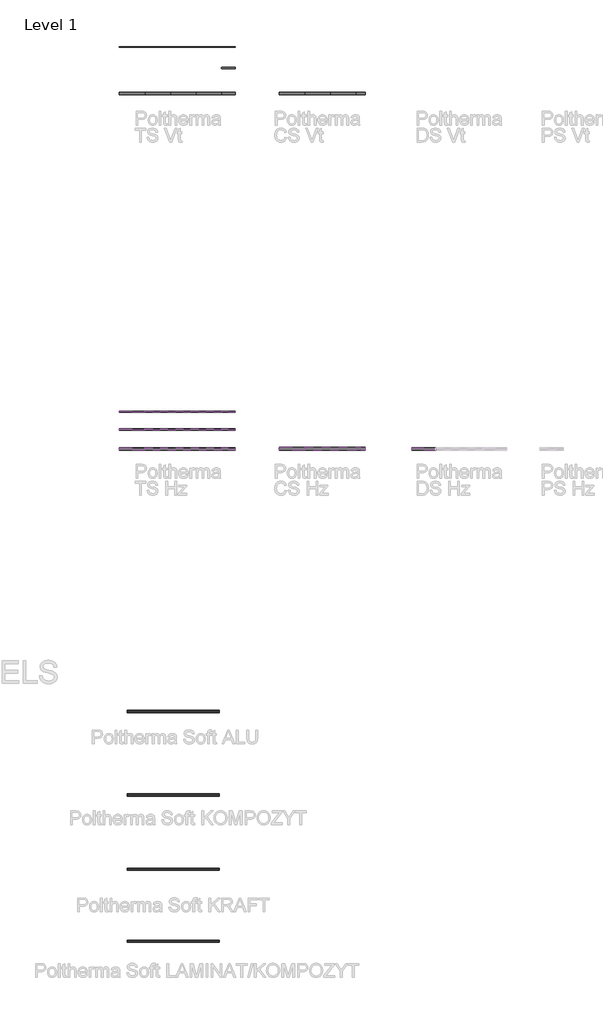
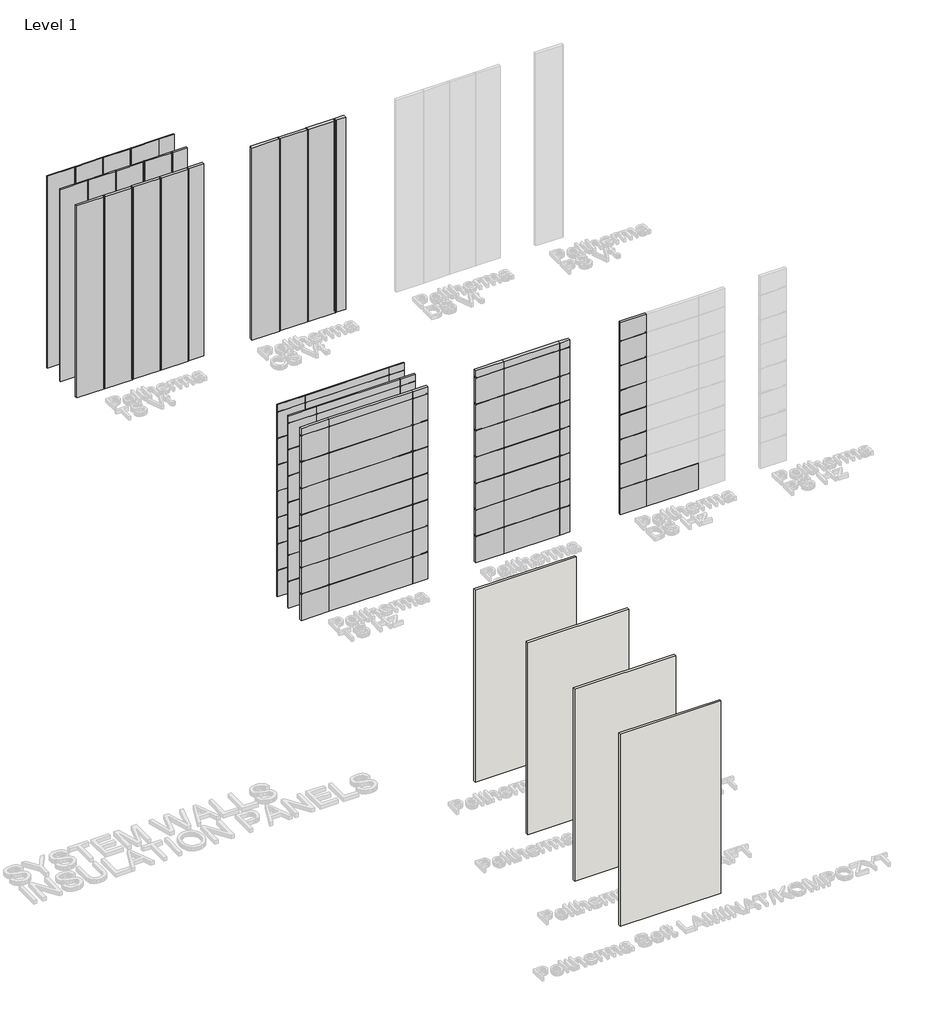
# One storey, part 1 of 27: 124 plates, 4 walls.
"""IFC4 building model written with IfcOpenShell, lengths in millimetres."""

from ifc_helpers import new_model, si_unit, origin, origin_with_axes, place, context, project, spatial, polyline, outline, extrude, transform, mapped, element, save
from components import poltherma_cs_120_64653d21, poltherma_cs_120_1daff7ea, poltherma_cs_120_40549a2e, poltherma_cs_120_fbbb0af5, poltherma_cs_120_e44c0f6b, poltherma_cs_120_78175f20, poltherma_cs_120_0cfae51c, poltherma_cs_120_099495f3, poltherma_cs_120_6d86f31b, poltherma_cs_120_21748652, poltherma_cs_120_ee5d68ca, poltherma_cs_120_100e0ef2, poltherma_ds_100_d88b4380, poltherma_ds_100_98c2bc51, poltherma_ds_100_de707eb4, poltherma_ds_100_4dea5682, poltherma_ts_100_263237e6, poltherma_ts_100_7b695300, poltherma_ts_100_44fe8c07, poltherma_ts_100_0bb2fc31, poltherma_ts_100_9f9b319c, poltherma_ts_100_6033b162, poltherma_ts_100_bee1555e, poltherma_ts_100_b3715b13, poltherma_ts_100_3a0a2318, poltherma_ts_100_c626b90e, poltherma_ts_100_5a3106a8, poltherma_ts_100_5c1c5dba, poltherma_ts_40_bbba443b, poltherma_ts_40_f3512897, poltherma_ts_40_73381110, poltherma_ts_40_2aec9fe8, poltherma_ts_40_e0eb3698, poltherma_ts_40_79d9c480, poltherma_ts_40_39fe1b16, poltherma_ts_40_ccc66070, poltherma_ts_40_0c37c41d, poltherma_ts_40_c34f58fd, poltherma_ts_40_b35252ce, poltherma_ts_40_5d269152, poltherma_ts_60_b4611f67, poltherma_ts_60_dc3e1cb6, poltherma_ts_60_b4b8779d, poltherma_ts_60_d6ba0856, poltherma_ts_60_a74884d3, poltherma_ts_60_9aed752a, poltherma_ts_60_cce1f58e, poltherma_ts_60_64a75bf9, poltherma_ts_60_3e408c3d, poltherma_ts_60_656cde4c, poltherma_ts_60_83b530aa, poltherma_ts_60_06df7f63

model = new_model("IFC4")

# Units and contexts
model_context = context("Model", 3, world=origin())
ifc_project = project(units=[si_unit("LENGTHUNIT", "METRE", prefix="MILLI")], contexts=[model_context])

# Site, building, storey
site = spatial("IfcSite", under=ifc_project)
building = spatial("IfcBuilding", under=site)
storey = spatial("IfcBuildingStorey", under=building, Name="Level 1", Elevation=0.0)

# Plates
placement = place(None, origin())
poltherma_cs_120_shape = poltherma_cs_120_64653d21(model_context)
element("IfcPlate", 1, ObjectType="Europanels_Poltherma CS_Hz : PolTherma CS 120", at=placement, inside=storey, context=model_context, shape_type="MappedRepresentation", body=[
    mapped(poltherma_cs_120_shape, transform((-5125.7125597, -18297.4348092, 0.0), x_axis=(1.0, 0.0, 0.0), y_axis=(0.0, 1.0, 0.0), z_axis=(0.0, 0.0, 1.0))),
])
poltherma_cs_120_2_shape = poltherma_cs_120_1daff7ea(model_context)
element("IfcPlate", 2, ObjectType="Europanels_Poltherma CS_Hz : PolTherma CS 120", at=placement, inside=storey, context=model_context, shape_type="MappedRepresentation", body=[
    mapped(poltherma_cs_120_2_shape, transform((-3475.7125597, -18297.4348092, 0.0), x_axis=(1.0, 0.0, 0.0), y_axis=(0.0, 1.0, 0.0), z_axis=(0.0, 0.0, 1.0))),
])
poltherma_cs_120_3_shape = poltherma_cs_120_40549a2e(model_context)
element("IfcPlate", 3, ObjectType="Europanels_Poltherma CS_Hz : PolTherma CS 120", at=placement, inside=storey, context=model_context, shape_type="MappedRepresentation", body=[
    mapped(poltherma_cs_120_3_shape, transform((-2175.7125597, -18297.4348092, 0.0), x_axis=(1.0, 0.0, 0.0), y_axis=(0.0, 1.0, 0.0), z_axis=(0.0, 0.0, 1.0))),
])
poltherma_cs_120_4_shape = poltherma_cs_120_fbbb0af5(model_context)
element("IfcPlate", 4, ObjectType="Europanels_Poltherma CS_Hz : PolTherma CS 120", at=placement, inside=storey, context=model_context, shape_type="MappedRepresentation", body=[
    mapped(poltherma_cs_120_4_shape, transform((-5125.7125597, -18297.4348092, 1100.0), x_axis=(1.0, 0.0, 0.0), y_axis=(0.0, 1.0, 0.0), z_axis=(0.0, 0.0, 1.0))),
])
element("IfcPlate", 5, ObjectType="Europanels_Poltherma CS_Hz : PolTherma CS 120", at=placement, inside=storey, context=model_context, shape_type="MappedRepresentation", body=[
    mapped(poltherma_cs_120_4_shape, transform((-5125.7125597, -18297.4348092, 2200.0), x_axis=(1.0, 0.0, 0.0), y_axis=(0.0, 1.0, 0.0), z_axis=(0.0, 0.0, 1.0))),
])
element("IfcPlate", 6, ObjectType="Europanels_Poltherma CS_Hz : PolTherma CS 120", at=placement, inside=storey, context=model_context, shape_type="MappedRepresentation", body=[
    mapped(poltherma_cs_120_4_shape, transform((-5125.7125597, -18297.4348092, 3300.0), x_axis=(1.0, 0.0, 0.0), y_axis=(0.0, 1.0, 0.0), z_axis=(0.0, 0.0, 1.0))),
])
element("IfcPlate", 7, ObjectType="Europanels_Poltherma CS_Hz : PolTherma CS 120", at=placement, inside=storey, context=model_context, shape_type="MappedRepresentation", body=[
    mapped(poltherma_cs_120_4_shape, transform((-5125.7125597, -18297.4348092, 4400.0), x_axis=(1.0, 0.0, 0.0), y_axis=(0.0, 1.0, 0.0), z_axis=(0.0, 0.0, 1.0))),
])
element("IfcPlate", 8, ObjectType="Europanels_Poltherma CS_Hz : PolTherma CS 120", at=placement, inside=storey, context=model_context, shape_type="MappedRepresentation", body=[
    mapped(poltherma_cs_120_4_shape, transform((-5125.7125597, -18297.4348092, 5500.0), x_axis=(1.0, 0.0, 0.0), y_axis=(0.0, 1.0, 0.0), z_axis=(0.0, 0.0, 1.0))),
])
element("IfcPlate", 9, ObjectType="Europanels_Poltherma CS_Hz : PolTherma CS 120", at=placement, inside=storey, context=model_context, shape_type="MappedRepresentation", body=[
    mapped(poltherma_cs_120_4_shape, transform((-5125.7125597, -18297.4348092, 6600.0), x_axis=(1.0, 0.0, 0.0), y_axis=(0.0, 1.0, 0.0), z_axis=(0.0, 0.0, 1.0))),
])
poltherma_cs_120_5_shape = poltherma_cs_120_e44c0f6b(model_context)
element("IfcPlate", 10, ObjectType="Europanels_Poltherma CS_Hz : PolTherma CS 120", at=placement, inside=storey, context=model_context, shape_type="MappedRepresentation", body=[
    mapped(poltherma_cs_120_5_shape, transform((-3475.7125597, -18297.4348092, 1100.0), x_axis=(1.0, 0.0, 0.0), y_axis=(0.0, 1.0, 0.0), z_axis=(0.0, 0.0, 1.0))),
])
element("IfcPlate", 11, ObjectType="Europanels_Poltherma CS_Hz : PolTherma CS 120", at=placement, inside=storey, context=model_context, shape_type="MappedRepresentation", body=[
    mapped(poltherma_cs_120_5_shape, transform((-3475.7125597, -18297.4348092, 2200.0), x_axis=(1.0, 0.0, 0.0), y_axis=(0.0, 1.0, 0.0), z_axis=(0.0, 0.0, 1.0))),
])
element("IfcPlate", 12, ObjectType="Europanels_Poltherma CS_Hz : PolTherma CS 120", at=placement, inside=storey, context=model_context, shape_type="MappedRepresentation", body=[
    mapped(poltherma_cs_120_5_shape, transform((-3475.7125597, -18297.4348092, 3300.0), x_axis=(1.0, 0.0, 0.0), y_axis=(0.0, 1.0, 0.0), z_axis=(0.0, 0.0, 1.0))),
])
element("IfcPlate", 13, ObjectType="Europanels_Poltherma CS_Hz : PolTherma CS 120", at=placement, inside=storey, context=model_context, shape_type="MappedRepresentation", body=[
    mapped(poltherma_cs_120_5_shape, transform((-3475.7125597, -18297.4348092, 4400.0), x_axis=(1.0, 0.0, 0.0), y_axis=(0.0, 1.0, 0.0), z_axis=(0.0, 0.0, 1.0))),
])
element("IfcPlate", 14, ObjectType="Europanels_Poltherma CS_Hz : PolTherma CS 120", at=placement, inside=storey, context=model_context, shape_type="MappedRepresentation", body=[
    mapped(poltherma_cs_120_5_shape, transform((-3475.7125597, -18297.4348092, 5500.0), x_axis=(1.0, 0.0, 0.0), y_axis=(0.0, 1.0, 0.0), z_axis=(0.0, 0.0, 1.0))),
])
element("IfcPlate", 15, ObjectType="Europanels_Poltherma CS_Hz : PolTherma CS 120", at=placement, inside=storey, context=model_context, shape_type="MappedRepresentation", body=[
    mapped(poltherma_cs_120_5_shape, transform((-3475.7125597, -18297.4348092, 6600.0), x_axis=(1.0, 0.0, 0.0), y_axis=(0.0, 1.0, 0.0), z_axis=(0.0, 0.0, 1.0))),
])
poltherma_cs_120_6_shape = poltherma_cs_120_78175f20(model_context)
element("IfcPlate", 16, ObjectType="Europanels_Poltherma CS_Hz : PolTherma CS 120", at=placement, inside=storey, context=model_context, shape_type="MappedRepresentation", body=[
    mapped(poltherma_cs_120_6_shape, transform((-2175.7125597, -18297.4348092, 1100.0), x_axis=(1.0, 0.0, 0.0), y_axis=(0.0, 1.0, 0.0), z_axis=(0.0, 0.0, 1.0))),
])
element("IfcPlate", 17, ObjectType="Europanels_Poltherma CS_Hz : PolTherma CS 120", at=placement, inside=storey, context=model_context, shape_type="MappedRepresentation", body=[
    mapped(poltherma_cs_120_6_shape, transform((-2175.7125597, -18297.4348092, 2200.0), x_axis=(1.0, 0.0, 0.0), y_axis=(0.0, 1.0, 0.0), z_axis=(0.0, 0.0, 1.0))),
])
element("IfcPlate", 18, ObjectType="Europanels_Poltherma CS_Hz : PolTherma CS 120", at=placement, inside=storey, context=model_context, shape_type="MappedRepresentation", body=[
    mapped(poltherma_cs_120_6_shape, transform((-2175.7125597, -18297.4348092, 3300.0), x_axis=(1.0, 0.0, 0.0), y_axis=(0.0, 1.0, 0.0), z_axis=(0.0, 0.0, 1.0))),
])
element("IfcPlate", 19, ObjectType="Europanels_Poltherma CS_Hz : PolTherma CS 120", at=placement, inside=storey, context=model_context, shape_type="MappedRepresentation", body=[
    mapped(poltherma_cs_120_6_shape, transform((-2175.7125597, -18297.4348092, 4400.0), x_axis=(1.0, 0.0, 0.0), y_axis=(0.0, 1.0, 0.0), z_axis=(0.0, 0.0, 1.0))),
])
element("IfcPlate", 20, ObjectType="Europanels_Poltherma CS_Hz : PolTherma CS 120", at=placement, inside=storey, context=model_context, shape_type="MappedRepresentation", body=[
    mapped(poltherma_cs_120_6_shape, transform((-2175.7125597, -18297.4348092, 5500.0), x_axis=(1.0, 0.0, 0.0), y_axis=(0.0, 1.0, 0.0), z_axis=(0.0, 0.0, 1.0))),
])
element("IfcPlate", 21, ObjectType="Europanels_Poltherma CS_Hz : PolTherma CS 120", at=placement, inside=storey, context=model_context, shape_type="MappedRepresentation", body=[
    mapped(poltherma_cs_120_6_shape, transform((-2175.7125597, -18297.4348092, 6600.0), x_axis=(1.0, 0.0, 0.0), y_axis=(0.0, 1.0, 0.0), z_axis=(0.0, 0.0, 1.0))),
])
poltherma_cs_120_7_shape = poltherma_cs_120_0cfae51c(model_context)
element("IfcPlate", 22, ObjectType="Europanels_Poltherma CS_Hz : PolTherma CS 120", at=placement, inside=storey, context=model_context, shape_type="MappedRepresentation", body=[
    mapped(poltherma_cs_120_7_shape, transform((-5125.7125597, -18297.4348092, 7700.0), x_axis=(1.0, 0.0, 0.0), y_axis=(0.0, 1.0, 0.0), z_axis=(0.0, 0.0, 1.0))),
])
poltherma_cs_120_8_shape = poltherma_cs_120_099495f3(model_context)
element("IfcPlate", 23, ObjectType="Europanels_Poltherma CS_Hz : PolTherma CS 120", at=placement, inside=storey, context=model_context, shape_type="MappedRepresentation", body=[
    mapped(poltherma_cs_120_8_shape, transform((-3475.7125597, -18297.4348092, 7700.0), x_axis=(1.0, 0.0, 0.0), y_axis=(0.0, 1.0, 0.0), z_axis=(0.0, 0.0, 1.0))),
])
poltherma_cs_120_9_shape = poltherma_cs_120_6d86f31b(model_context)
element("IfcPlate", 24, ObjectType="Europanels_Poltherma CS_Hz : PolTherma CS 120", at=placement, inside=storey, context=model_context, shape_type="MappedRepresentation", body=[
    mapped(poltherma_cs_120_9_shape, transform((-2175.7125597, -18297.4348092, 7700.0), x_axis=(1.0, 0.0, 0.0), y_axis=(0.0, 1.0, 0.0), z_axis=(0.0, 0.0, 1.0))),
])
poltherma_cs_120_10_shape = poltherma_cs_120_21748652(model_context)
element("IfcPlate", 25, ObjectType="Europanels_Poltherma CS_Vt : PolTherma CS 120", at=placement, inside=storey, context=model_context, shape_type="MappedRepresentation", body=[
    mapped(poltherma_cs_120_10_shape, transform((-5125.7125597, -2997.4348092, 0.0), x_axis=(1.0, 0.0, 0.0), y_axis=(0.0, 1.0, 0.0), z_axis=(0.0, 0.0, 1.0))),
])
poltherma_cs_120_11_shape = poltherma_cs_120_ee5d68ca(model_context)
element("IfcPlate", 26, ObjectType="Europanels_Poltherma CS_Vt : PolTherma CS 120", at=placement, inside=storey, context=model_context, shape_type="MappedRepresentation", body=[
    mapped(poltherma_cs_120_11_shape, transform((-4025.7125597, -2997.4348092, 0.0), x_axis=(1.0, 0.0, 0.0), y_axis=(0.0, 1.0, 0.0), z_axis=(0.0, 0.0, 1.0))),
])
element("IfcPlate", 27, ObjectType="Europanels_Poltherma CS_Vt : PolTherma CS 120", at=placement, inside=storey, context=model_context, shape_type="MappedRepresentation", body=[
    mapped(poltherma_cs_120_11_shape, transform((-2925.7125597, -2997.4348092, 0.0), x_axis=(1.0, 0.0, 0.0), y_axis=(0.0, 1.0, 0.0), z_axis=(0.0, 0.0, 1.0))),
])
poltherma_cs_120_12_shape = poltherma_cs_120_100e0ef2(model_context)
element("IfcPlate", 28, ObjectType="Europanels_Poltherma CS_Vt : PolTherma CS 120", at=placement, inside=storey, context=model_context, shape_type="MappedRepresentation", body=[
    mapped(poltherma_cs_120_12_shape, transform((-2175.7125597, -2997.4348092, 0.0), x_axis=(1.0, 0.0, 0.0), y_axis=(0.0, 1.0, 0.0), z_axis=(0.0, 0.0, 1.0))),
])
poltherma_ds_100_shape = poltherma_ds_100_d88b4380(model_context)
element("IfcPlate", 29, ObjectType="Europanels_Poltherma DS_Hz : PolTherma DS 100", at=placement, inside=storey, context=model_context, shape_type="MappedRepresentation", body=[
    mapped(poltherma_ds_100_shape, transform((536.7874403, -18297.4348092, 0.0), x_axis=(1.0, 0.0, 0.0), y_axis=(0.0, 1.0, 0.0), z_axis=(0.0, 0.0, 1.0))),
])
poltherma_ds_100_2_shape = poltherma_ds_100_98c2bc51(model_context)
element("IfcPlate", 30, ObjectType="Europanels_Poltherma DS_Hz : PolTherma DS 100", at=placement, inside=storey, context=model_context, shape_type="MappedRepresentation", body=[
    mapped(poltherma_ds_100_2_shape, transform((2074.2874403, -18297.4348092, 0.0), x_axis=(1.0, 0.0, 0.0), y_axis=(0.0, 1.0, 0.0), z_axis=(0.0, 0.0, 1.0))),
])
poltherma_ds_100_3_shape = poltherma_ds_100_de707eb4(model_context)
element("IfcPlate", 31, ObjectType="Europanels_Poltherma DS_Hz : PolTherma DS 100", at=placement, inside=storey, context=model_context, shape_type="MappedRepresentation", body=[
    mapped(poltherma_ds_100_3_shape, transform((536.7874403, -18297.4348092, 1025.0), x_axis=(1.0, 0.0, 0.0), y_axis=(0.0, 1.0, 0.0), z_axis=(0.0, 0.0, 1.0))),
])
element("IfcPlate", 32, ObjectType="Europanels_Poltherma DS_Hz : PolTherma DS 100", at=placement, inside=storey, context=model_context, shape_type="MappedRepresentation", body=[
    mapped(poltherma_ds_100_3_shape, transform((536.7874403, -18297.4348092, 2050.0), x_axis=(1.0, 0.0, 0.0), y_axis=(0.0, 1.0, 0.0), z_axis=(0.0, 0.0, 1.0))),
])
element("IfcPlate", 33, ObjectType="Europanels_Poltherma DS_Hz : PolTherma DS 100", at=placement, inside=storey, context=model_context, shape_type="MappedRepresentation", body=[
    mapped(poltherma_ds_100_3_shape, transform((536.7874403, -18297.4348092, 3075.0), x_axis=(1.0, 0.0, 0.0), y_axis=(0.0, 1.0, 0.0), z_axis=(0.0, 0.0, 1.0))),
])
element("IfcPlate", 34, ObjectType="Europanels_Poltherma DS_Hz : PolTherma DS 100", at=placement, inside=storey, context=model_context, shape_type="MappedRepresentation", body=[
    mapped(poltherma_ds_100_3_shape, transform((536.7874403, -18297.4348092, 4100.0), x_axis=(1.0, 0.0, 0.0), y_axis=(0.0, 1.0, 0.0), z_axis=(0.0, 0.0, 1.0))),
])
element("IfcPlate", 35, ObjectType="Europanels_Poltherma DS_Hz : PolTherma DS 100", at=placement, inside=storey, context=model_context, shape_type="MappedRepresentation", body=[
    mapped(poltherma_ds_100_3_shape, transform((536.7874403, -18297.4348092, 5125.0), x_axis=(1.0, 0.0, 0.0), y_axis=(0.0, 1.0, 0.0), z_axis=(0.0, 0.0, 1.0))),
])
element("IfcPlate", 36, ObjectType="Europanels_Poltherma DS_Hz : PolTherma DS 100", at=placement, inside=storey, context=model_context, shape_type="MappedRepresentation", body=[
    mapped(poltherma_ds_100_3_shape, transform((536.7874403, -18297.4348092, 6150.0), x_axis=(1.0, 0.0, 0.0), y_axis=(0.0, 1.0, 0.0), z_axis=(0.0, 0.0, 1.0))),
])
poltherma_ds_100_4_shape = poltherma_ds_100_4dea5682(model_context)
element("IfcPlate", 37, ObjectType="Europanels_Poltherma DS_Hz : PolTherma DS 100", at=placement, inside=storey, context=model_context, shape_type="MappedRepresentation", body=[
    mapped(poltherma_ds_100_4_shape, transform((536.7874403, -18297.4348092, 7175.0), x_axis=(1.0, 0.0, 0.0), y_axis=(0.0, 1.0, 0.0), z_axis=(0.0, 0.0, 1.0))),
])
poltherma_ts_100_shape = poltherma_ts_100_263237e6(model_context)
element("IfcPlate", 38, ObjectType="Europanels_Poltherma TS_Hz : PolTherma TS 100", at=placement, inside=storey, context=model_context, shape_type="MappedRepresentation", body=[
    mapped(poltherma_ts_100_shape, transform((-12015.0675636, -18297.4348092, 0.0), x_axis=(1.0, 0.0, 0.0), y_axis=(0.0, 1.0, 0.0), z_axis=(0.0, 0.0, 1.0))),
])
poltherma_ts_100_2_shape = poltherma_ts_100_7b695300(model_context)
element("IfcPlate", 39, ObjectType="Europanels_Poltherma TS_Hz : PolTherma TS 100", at=placement, inside=storey, context=model_context, shape_type="MappedRepresentation", body=[
    mapped(poltherma_ts_100_2_shape, transform((-9815.0675636, -18297.4348092, 0.0), x_axis=(1.0, 0.0, 0.0), y_axis=(0.0, 1.0, 0.0), z_axis=(0.0, 0.0, 1.0))),
])
poltherma_ts_100_3_shape = poltherma_ts_100_44fe8c07(model_context)
element("IfcPlate", 40, ObjectType="Europanels_Poltherma TS_Hz : PolTherma TS 100", at=placement, inside=storey, context=model_context, shape_type="MappedRepresentation", body=[
    mapped(poltherma_ts_100_3_shape, transform((-7865.0675636, -18297.4348092, 0.0), x_axis=(1.0, 0.0, 0.0), y_axis=(0.0, 1.0, 0.0), z_axis=(0.0, 0.0, 1.0))),
])
poltherma_ts_100_4_shape = poltherma_ts_100_0bb2fc31(model_context)
element("IfcPlate", 41, ObjectType="Europanels_Poltherma TS_Hz : PolTherma TS 100", at=placement, inside=storey, context=model_context, shape_type="MappedRepresentation", body=[
    mapped(poltherma_ts_100_4_shape, transform((-12015.0675636, -18297.4348092, 1100.0), x_axis=(1.0, 0.0, 0.0), y_axis=(0.0, 1.0, 0.0), z_axis=(0.0, 0.0, 1.0))),
])
element("IfcPlate", 42, ObjectType="Europanels_Poltherma TS_Hz : PolTherma TS 100", at=placement, inside=storey, context=model_context, shape_type="MappedRepresentation", body=[
    mapped(poltherma_ts_100_4_shape, transform((-12015.0675636, -18297.4348092, 2200.0), x_axis=(1.0, 0.0, 0.0), y_axis=(0.0, 1.0, 0.0), z_axis=(0.0, 0.0, 1.0))),
])
element("IfcPlate", 43, ObjectType="Europanels_Poltherma TS_Hz : PolTherma TS 100", at=placement, inside=storey, context=model_context, shape_type="MappedRepresentation", body=[
    mapped(poltherma_ts_100_4_shape, transform((-12015.0675636, -18297.4348092, 3300.0), x_axis=(1.0, 0.0, 0.0), y_axis=(0.0, 1.0, 0.0), z_axis=(0.0, 0.0, 1.0))),
])
element("IfcPlate", 44, ObjectType="Europanels_Poltherma TS_Hz : PolTherma TS 100", at=placement, inside=storey, context=model_context, shape_type="MappedRepresentation", body=[
    mapped(poltherma_ts_100_4_shape, transform((-12015.0675636, -18297.4348092, 4400.0), x_axis=(1.0, 0.0, 0.0), y_axis=(0.0, 1.0, 0.0), z_axis=(0.0, 0.0, 1.0))),
])
element("IfcPlate", 45, ObjectType="Europanels_Poltherma TS_Hz : PolTherma TS 100", at=placement, inside=storey, context=model_context, shape_type="MappedRepresentation", body=[
    mapped(poltherma_ts_100_4_shape, transform((-12015.0675636, -18297.4348092, 5500.0), x_axis=(1.0, 0.0, 0.0), y_axis=(0.0, 1.0, 0.0), z_axis=(0.0, 0.0, 1.0))),
])
element("IfcPlate", 46, ObjectType="Europanels_Poltherma TS_Hz : PolTherma TS 100", at=placement, inside=storey, context=model_context, shape_type="MappedRepresentation", body=[
    mapped(poltherma_ts_100_4_shape, transform((-12015.0675636, -18297.4348092, 6600.0), x_axis=(1.0, 0.0, 0.0), y_axis=(0.0, 1.0, 0.0), z_axis=(0.0, 0.0, 1.0))),
])
poltherma_ts_100_5_shape = poltherma_ts_100_9f9b319c(model_context)
element("IfcPlate", 47, ObjectType="Europanels_Poltherma TS_Hz : PolTherma TS 100", at=placement, inside=storey, context=model_context, shape_type="MappedRepresentation", body=[
    mapped(poltherma_ts_100_5_shape, transform((-9815.0675636, -18297.4348092, 1100.0), x_axis=(1.0, 0.0, 0.0), y_axis=(0.0, 1.0, 0.0), z_axis=(0.0, 0.0, 1.0))),
])
element("IfcPlate", 48, ObjectType="Europanels_Poltherma TS_Hz : PolTherma TS 100", at=placement, inside=storey, context=model_context, shape_type="MappedRepresentation", body=[
    mapped(poltherma_ts_100_5_shape, transform((-9815.0675636, -18297.4348092, 2200.0), x_axis=(1.0, 0.0, 0.0), y_axis=(0.0, 1.0, 0.0), z_axis=(0.0, 0.0, 1.0))),
])
element("IfcPlate", 49, ObjectType="Europanels_Poltherma TS_Hz : PolTherma TS 100", at=placement, inside=storey, context=model_context, shape_type="MappedRepresentation", body=[
    mapped(poltherma_ts_100_5_shape, transform((-9815.0675636, -18297.4348092, 3300.0), x_axis=(1.0, 0.0, 0.0), y_axis=(0.0, 1.0, 0.0), z_axis=(0.0, 0.0, 1.0))),
])
element("IfcPlate", 50, ObjectType="Europanels_Poltherma TS_Hz : PolTherma TS 100", at=placement, inside=storey, context=model_context, shape_type="MappedRepresentation", body=[
    mapped(poltherma_ts_100_5_shape, transform((-9815.0675636, -18297.4348092, 4400.0), x_axis=(1.0, 0.0, 0.0), y_axis=(0.0, 1.0, 0.0), z_axis=(0.0, 0.0, 1.0))),
])
element("IfcPlate", 51, ObjectType="Europanels_Poltherma TS_Hz : PolTherma TS 100", at=placement, inside=storey, context=model_context, shape_type="MappedRepresentation", body=[
    mapped(poltherma_ts_100_5_shape, transform((-9815.0675636, -18297.4348092, 5500.0), x_axis=(1.0, 0.0, 0.0), y_axis=(0.0, 1.0, 0.0), z_axis=(0.0, 0.0, 1.0))),
])
element("IfcPlate", 52, ObjectType="Europanels_Poltherma TS_Hz : PolTherma TS 100", at=placement, inside=storey, context=model_context, shape_type="MappedRepresentation", body=[
    mapped(poltherma_ts_100_5_shape, transform((-9815.0675636, -18297.4348092, 6600.0), x_axis=(1.0, 0.0, 0.0), y_axis=(0.0, 1.0, 0.0), z_axis=(0.0, 0.0, 1.0))),
])
poltherma_ts_100_6_shape = poltherma_ts_100_6033b162(model_context)
element("IfcPlate", 53, ObjectType="Europanels_Poltherma TS_Hz : PolTherma TS 100", at=placement, inside=storey, context=model_context, shape_type="MappedRepresentation", body=[
    mapped(poltherma_ts_100_6_shape, transform((-7865.0675636, -18297.4348092, 1100.0), x_axis=(1.0, 0.0, 0.0), y_axis=(0.0, 1.0, 0.0), z_axis=(0.0, 0.0, 1.0))),
])
element("IfcPlate", 54, ObjectType="Europanels_Poltherma TS_Hz : PolTherma TS 100", at=placement, inside=storey, context=model_context, shape_type="MappedRepresentation", body=[
    mapped(poltherma_ts_100_6_shape, transform((-7865.0675636, -18297.4348092, 2200.0), x_axis=(1.0, 0.0, 0.0), y_axis=(0.0, 1.0, 0.0), z_axis=(0.0, 0.0, 1.0))),
])
element("IfcPlate", 55, ObjectType="Europanels_Poltherma TS_Hz : PolTherma TS 100", at=placement, inside=storey, context=model_context, shape_type="MappedRepresentation", body=[
    mapped(poltherma_ts_100_6_shape, transform((-7865.0675636, -18297.4348092, 3300.0), x_axis=(1.0, 0.0, 0.0), y_axis=(0.0, 1.0, 0.0), z_axis=(0.0, 0.0, 1.0))),
])
element("IfcPlate", 56, ObjectType="Europanels_Poltherma TS_Hz : PolTherma TS 100", at=placement, inside=storey, context=model_context, shape_type="MappedRepresentation", body=[
    mapped(poltherma_ts_100_6_shape, transform((-7865.0675636, -18297.4348092, 4400.0), x_axis=(1.0, 0.0, 0.0), y_axis=(0.0, 1.0, 0.0), z_axis=(0.0, 0.0, 1.0))),
])
element("IfcPlate", 57, ObjectType="Europanels_Poltherma TS_Hz : PolTherma TS 100", at=placement, inside=storey, context=model_context, shape_type="MappedRepresentation", body=[
    mapped(poltherma_ts_100_6_shape, transform((-7865.0675636, -18297.4348092, 5500.0), x_axis=(1.0, 0.0, 0.0), y_axis=(0.0, 1.0, 0.0), z_axis=(0.0, 0.0, 1.0))),
])
element("IfcPlate", 58, ObjectType="Europanels_Poltherma TS_Hz : PolTherma TS 100", at=placement, inside=storey, context=model_context, shape_type="MappedRepresentation", body=[
    mapped(poltherma_ts_100_6_shape, transform((-7865.0675636, -18297.4348092, 6600.0), x_axis=(1.0, 0.0, 0.0), y_axis=(0.0, 1.0, 0.0), z_axis=(0.0, 0.0, 1.0))),
])
poltherma_ts_100_7_shape = poltherma_ts_100_bee1555e(model_context)
element("IfcPlate", 59, ObjectType="Europanels_Poltherma TS_Hz : PolTherma TS 100", at=placement, inside=storey, context=model_context, shape_type="MappedRepresentation", body=[
    mapped(poltherma_ts_100_7_shape, transform((-12015.0675636, -18297.4348092, 7700.0), x_axis=(1.0, 0.0, 0.0), y_axis=(0.0, 1.0, 0.0), z_axis=(0.0, 0.0, 1.0))),
])
poltherma_ts_100_8_shape = poltherma_ts_100_b3715b13(model_context)
element("IfcPlate", 60, ObjectType="Europanels_Poltherma TS_Hz : PolTherma TS 100", at=placement, inside=storey, context=model_context, shape_type="MappedRepresentation", body=[
    mapped(poltherma_ts_100_8_shape, transform((-9815.0675636, -18297.4348092, 7700.0), x_axis=(1.0, 0.0, 0.0), y_axis=(0.0, 1.0, 0.0), z_axis=(0.0, 0.0, 1.0))),
])
poltherma_ts_100_9_shape = poltherma_ts_100_3a0a2318(model_context)
element("IfcPlate", 61, ObjectType="Europanels_Poltherma TS_Hz : PolTherma TS 100", at=placement, inside=storey, context=model_context, shape_type="MappedRepresentation", body=[
    mapped(poltherma_ts_100_9_shape, transform((-7865.0675636, -18297.4348092, 7700.0), x_axis=(1.0, 0.0, 0.0), y_axis=(0.0, 1.0, 0.0), z_axis=(0.0, 0.0, 1.0))),
])
poltherma_ts_100_10_shape = poltherma_ts_100_c626b90e(model_context)
element("IfcPlate", 62, ObjectType="Europanels_Poltherma TS_Vt : PolTherma TS 100", at=placement, inside=storey, context=model_context, shape_type="MappedRepresentation", body=[
    mapped(poltherma_ts_100_10_shape, transform((-12015.0675636, -2997.4348092, 0.0), x_axis=(1.0, 0.0, 0.0), y_axis=(0.0, 1.0, 0.0), z_axis=(0.0, 0.0, 1.0))),
])
poltherma_ts_100_11_shape = poltherma_ts_100_5a3106a8(model_context)
element("IfcPlate", 63, ObjectType="Europanels_Poltherma TS_Vt : PolTherma TS 100", at=placement, inside=storey, context=model_context, shape_type="MappedRepresentation", body=[
    mapped(poltherma_ts_100_11_shape, transform((-10915.0675636, -2997.4348092, 0.0), x_axis=(1.0, 0.0, 0.0), y_axis=(0.0, 1.0, 0.0), z_axis=(0.0, 0.0, 1.0))),
])
element("IfcPlate", 64, ObjectType="Europanels_Poltherma TS_Vt : PolTherma TS 100", at=placement, inside=storey, context=model_context, shape_type="MappedRepresentation", body=[
    mapped(poltherma_ts_100_11_shape, transform((-9815.0675636, -2997.4348092, 0.0), x_axis=(1.0, 0.0, 0.0), y_axis=(0.0, 1.0, 0.0), z_axis=(0.0, 0.0, 1.0))),
])
element("IfcPlate", 65, ObjectType="Europanels_Poltherma TS_Vt : PolTherma TS 100", at=placement, inside=storey, context=model_context, shape_type="MappedRepresentation", body=[
    mapped(poltherma_ts_100_11_shape, transform((-8715.0675636, -2997.4348092, 0.0), x_axis=(1.0, 0.0, 0.0), y_axis=(0.0, 1.0, 0.0), z_axis=(0.0, 0.0, 1.0))),
])
poltherma_ts_100_12_shape = poltherma_ts_100_5c1c5dba(model_context)
element("IfcPlate", 66, ObjectType="Europanels_Poltherma TS_Vt : PolTherma TS 100", at=placement, inside=storey, context=model_context, shape_type="MappedRepresentation", body=[
    mapped(poltherma_ts_100_12_shape, transform((-7865.0675636, -2997.4348092, 0.0), x_axis=(1.0, 0.0, 0.0), y_axis=(0.0, 1.0, 0.0), z_axis=(0.0, 0.0, 1.0))),
])
poltherma_ts_40_shape = poltherma_ts_40_bbba443b(model_context)
element("IfcPlate", 67, ObjectType="Europanels_Poltherma TS_Hz : PolTherma TS 40", at=placement, inside=storey, context=model_context, shape_type="MappedRepresentation", body=[
    mapped(poltherma_ts_40_shape, transform((-12015.0675636, -16697.4348092, 0.0), x_axis=(1.0, 0.0, 0.0), y_axis=(0.0, 1.0, 0.0), z_axis=(0.0, 0.0, 1.0))),
])
poltherma_ts_40_2_shape = poltherma_ts_40_f3512897(model_context)
element("IfcPlate", 68, ObjectType="Europanels_Poltherma TS_Hz : PolTherma TS 40", at=placement, inside=storey, context=model_context, shape_type="MappedRepresentation", body=[
    mapped(poltherma_ts_40_2_shape, transform((-9815.0675636, -16697.4348092, 0.0), x_axis=(1.0, 0.0, 0.0), y_axis=(0.0, 1.0, 0.0), z_axis=(0.0, 0.0, 1.0))),
])
poltherma_ts_40_3_shape = poltherma_ts_40_73381110(model_context)
element("IfcPlate", 69, ObjectType="Europanels_Poltherma TS_Hz : PolTherma TS 40", at=placement, inside=storey, context=model_context, shape_type="MappedRepresentation", body=[
    mapped(poltherma_ts_40_3_shape, transform((-7865.0675636, -16697.4348092, 0.0), x_axis=(1.0, 0.0, 0.0), y_axis=(0.0, 1.0, 0.0), z_axis=(0.0, 0.0, 1.0))),
])
poltherma_ts_40_4_shape = poltherma_ts_40_2aec9fe8(model_context)
element("IfcPlate", 70, ObjectType="Europanels_Poltherma TS_Hz : PolTherma TS 40", at=placement, inside=storey, context=model_context, shape_type="MappedRepresentation", body=[
    mapped(poltherma_ts_40_4_shape, transform((-12015.0675636, -16697.4348092, 1100.0), x_axis=(1.0, 0.0, 0.0), y_axis=(0.0, 1.0, 0.0), z_axis=(0.0, 0.0, 1.0))),
])
element("IfcPlate", 71, ObjectType="Europanels_Poltherma TS_Hz : PolTherma TS 40", at=placement, inside=storey, context=model_context, shape_type="MappedRepresentation", body=[
    mapped(poltherma_ts_40_4_shape, transform((-12015.0675636, -16697.4348092, 2200.0), x_axis=(1.0, 0.0, 0.0), y_axis=(0.0, 1.0, 0.0), z_axis=(0.0, 0.0, 1.0))),
])
element("IfcPlate", 72, ObjectType="Europanels_Poltherma TS_Hz : PolTherma TS 40", at=placement, inside=storey, context=model_context, shape_type="MappedRepresentation", body=[
    mapped(poltherma_ts_40_4_shape, transform((-12015.0675636, -16697.4348092, 3300.0), x_axis=(1.0, 0.0, 0.0), y_axis=(0.0, 1.0, 0.0), z_axis=(0.0, 0.0, 1.0))),
])
element("IfcPlate", 73, ObjectType="Europanels_Poltherma TS_Hz : PolTherma TS 40", at=placement, inside=storey, context=model_context, shape_type="MappedRepresentation", body=[
    mapped(poltherma_ts_40_4_shape, transform((-12015.0675636, -16697.4348092, 4400.0), x_axis=(1.0, 0.0, 0.0), y_axis=(0.0, 1.0, 0.0), z_axis=(0.0, 0.0, 1.0))),
])
element("IfcPlate", 74, ObjectType="Europanels_Poltherma TS_Hz : PolTherma TS 40", at=placement, inside=storey, context=model_context, shape_type="MappedRepresentation", body=[
    mapped(poltherma_ts_40_4_shape, transform((-12015.0675636, -16697.4348092, 5500.0), x_axis=(1.0, 0.0, 0.0), y_axis=(0.0, 1.0, 0.0), z_axis=(0.0, 0.0, 1.0))),
])
element("IfcPlate", 75, ObjectType="Europanels_Poltherma TS_Hz : PolTherma TS 40", at=placement, inside=storey, context=model_context, shape_type="MappedRepresentation", body=[
    mapped(poltherma_ts_40_4_shape, transform((-12015.0675636, -16697.4348092, 6600.0), x_axis=(1.0, 0.0, 0.0), y_axis=(0.0, 1.0, 0.0), z_axis=(0.0, 0.0, 1.0))),
])
poltherma_ts_40_5_shape = poltherma_ts_40_e0eb3698(model_context)
element("IfcPlate", 76, ObjectType="Europanels_Poltherma TS_Hz : PolTherma TS 40", at=placement, inside=storey, context=model_context, shape_type="MappedRepresentation", body=[
    mapped(poltherma_ts_40_5_shape, transform((-9815.0675636, -16697.4348092, 1100.0), x_axis=(1.0, 0.0, 0.0), y_axis=(0.0, 1.0, 0.0), z_axis=(0.0, 0.0, 1.0))),
])
element("IfcPlate", 77, ObjectType="Europanels_Poltherma TS_Hz : PolTherma TS 40", at=placement, inside=storey, context=model_context, shape_type="MappedRepresentation", body=[
    mapped(poltherma_ts_40_5_shape, transform((-9815.0675636, -16697.4348092, 2200.0), x_axis=(1.0, 0.0, 0.0), y_axis=(0.0, 1.0, 0.0), z_axis=(0.0, 0.0, 1.0))),
])
element("IfcPlate", 78, ObjectType="Europanels_Poltherma TS_Hz : PolTherma TS 40", at=placement, inside=storey, context=model_context, shape_type="MappedRepresentation", body=[
    mapped(poltherma_ts_40_5_shape, transform((-9815.0675636, -16697.4348092, 3300.0), x_axis=(1.0, 0.0, 0.0), y_axis=(0.0, 1.0, 0.0), z_axis=(0.0, 0.0, 1.0))),
])
element("IfcPlate", 79, ObjectType="Europanels_Poltherma TS_Hz : PolTherma TS 40", at=placement, inside=storey, context=model_context, shape_type="MappedRepresentation", body=[
    mapped(poltherma_ts_40_5_shape, transform((-9815.0675636, -16697.4348092, 4400.0), x_axis=(1.0, 0.0, 0.0), y_axis=(0.0, 1.0, 0.0), z_axis=(0.0, 0.0, 1.0))),
])
element("IfcPlate", 80, ObjectType="Europanels_Poltherma TS_Hz : PolTherma TS 40", at=placement, inside=storey, context=model_context, shape_type="MappedRepresentation", body=[
    mapped(poltherma_ts_40_5_shape, transform((-9815.0675636, -16697.4348092, 5500.0), x_axis=(1.0, 0.0, 0.0), y_axis=(0.0, 1.0, 0.0), z_axis=(0.0, 0.0, 1.0))),
])
element("IfcPlate", 81, ObjectType="Europanels_Poltherma TS_Hz : PolTherma TS 40", at=placement, inside=storey, context=model_context, shape_type="MappedRepresentation", body=[
    mapped(poltherma_ts_40_5_shape, transform((-9815.0675636, -16697.4348092, 6600.0), x_axis=(1.0, 0.0, 0.0), y_axis=(0.0, 1.0, 0.0), z_axis=(0.0, 0.0, 1.0))),
])
poltherma_ts_40_6_shape = poltherma_ts_40_79d9c480(model_context)
element("IfcPlate", 82, ObjectType="Europanels_Poltherma TS_Hz : PolTherma TS 40", at=placement, inside=storey, context=model_context, shape_type="MappedRepresentation", body=[
    mapped(poltherma_ts_40_6_shape, transform((-7865.0675636, -16697.4348092, 1100.0), x_axis=(1.0, 0.0, 0.0), y_axis=(0.0, 1.0, 0.0), z_axis=(0.0, 0.0, 1.0))),
])
element("IfcPlate", 83, ObjectType="Europanels_Poltherma TS_Hz : PolTherma TS 40", at=placement, inside=storey, context=model_context, shape_type="MappedRepresentation", body=[
    mapped(poltherma_ts_40_6_shape, transform((-7865.0675636, -16697.4348092, 2200.0), x_axis=(1.0, 0.0, 0.0), y_axis=(0.0, 1.0, 0.0), z_axis=(0.0, 0.0, 1.0))),
])
element("IfcPlate", 84, ObjectType="Europanels_Poltherma TS_Hz : PolTherma TS 40", at=placement, inside=storey, context=model_context, shape_type="MappedRepresentation", body=[
    mapped(poltherma_ts_40_6_shape, transform((-7865.0675636, -16697.4348092, 3300.0), x_axis=(1.0, 0.0, 0.0), y_axis=(0.0, 1.0, 0.0), z_axis=(0.0, 0.0, 1.0))),
])
element("IfcPlate", 85, ObjectType="Europanels_Poltherma TS_Hz : PolTherma TS 40", at=placement, inside=storey, context=model_context, shape_type="MappedRepresentation", body=[
    mapped(poltherma_ts_40_6_shape, transform((-7865.0675636, -16697.4348092, 4400.0), x_axis=(1.0, 0.0, 0.0), y_axis=(0.0, 1.0, 0.0), z_axis=(0.0, 0.0, 1.0))),
])
element("IfcPlate", 86, ObjectType="Europanels_Poltherma TS_Hz : PolTherma TS 40", at=placement, inside=storey, context=model_context, shape_type="MappedRepresentation", body=[
    mapped(poltherma_ts_40_6_shape, transform((-7865.0675636, -16697.4348092, 5500.0), x_axis=(1.0, 0.0, 0.0), y_axis=(0.0, 1.0, 0.0), z_axis=(0.0, 0.0, 1.0))),
])
element("IfcPlate", 87, ObjectType="Europanels_Poltherma TS_Hz : PolTherma TS 40", at=placement, inside=storey, context=model_context, shape_type="MappedRepresentation", body=[
    mapped(poltherma_ts_40_6_shape, transform((-7865.0675636, -16697.4348092, 6600.0), x_axis=(1.0, 0.0, 0.0), y_axis=(0.0, 1.0, 0.0), z_axis=(0.0, 0.0, 1.0))),
])
poltherma_ts_40_7_shape = poltherma_ts_40_39fe1b16(model_context)
element("IfcPlate", 88, ObjectType="Europanels_Poltherma TS_Hz : PolTherma TS 40", at=placement, inside=storey, context=model_context, shape_type="MappedRepresentation", body=[
    mapped(poltherma_ts_40_7_shape, transform((-12015.0675636, -16697.4348092, 7700.0), x_axis=(1.0, 0.0, 0.0), y_axis=(0.0, 1.0, 0.0), z_axis=(0.0, 0.0, 1.0))),
])
poltherma_ts_40_8_shape = poltherma_ts_40_ccc66070(model_context)
element("IfcPlate", 89, ObjectType="Europanels_Poltherma TS_Hz : PolTherma TS 40", at=placement, inside=storey, context=model_context, shape_type="MappedRepresentation", body=[
    mapped(poltherma_ts_40_8_shape, transform((-9815.0675636, -16697.4348092, 7700.0), x_axis=(1.0, 0.0, 0.0), y_axis=(0.0, 1.0, 0.0), z_axis=(0.0, 0.0, 1.0))),
])
poltherma_ts_40_9_shape = poltherma_ts_40_0c37c41d(model_context)
element("IfcPlate", 90, ObjectType="Europanels_Poltherma TS_Hz : PolTherma TS 40", at=placement, inside=storey, context=model_context, shape_type="MappedRepresentation", body=[
    mapped(poltherma_ts_40_9_shape, transform((-7865.0675636, -16697.4348092, 7700.0), x_axis=(1.0, 0.0, 0.0), y_axis=(0.0, 1.0, 0.0), z_axis=(0.0, 0.0, 1.0))),
])
poltherma_ts_40_10_shape = poltherma_ts_40_c34f58fd(model_context)
element("IfcPlate", 91, ObjectType="Europanels_Poltherma TS_Vt : PolTherma TS 40", at=placement, inside=storey, context=model_context, shape_type="MappedRepresentation", body=[
    mapped(poltherma_ts_40_10_shape, transform((-12015.0675636, -997.4348092, 0.0), x_axis=(1.0, 0.0, 0.0), y_axis=(0.0, 1.0, 0.0), z_axis=(0.0, 0.0, 1.0))),
])
poltherma_ts_40_11_shape = poltherma_ts_40_b35252ce(model_context)
element("IfcPlate", 92, ObjectType="Europanels_Poltherma TS_Vt : PolTherma TS 40", at=placement, inside=storey, context=model_context, shape_type="MappedRepresentation", body=[
    mapped(poltherma_ts_40_11_shape, transform((-10915.0675636, -997.4348092, 0.0), x_axis=(1.0, 0.0, 0.0), y_axis=(0.0, 1.0, 0.0), z_axis=(0.0, 0.0, 1.0))),
])
element("IfcPlate", 93, ObjectType="Europanels_Poltherma TS_Vt : PolTherma TS 40", at=placement, inside=storey, context=model_context, shape_type="MappedRepresentation", body=[
    mapped(poltherma_ts_40_11_shape, transform((-9815.0675636, -997.4348092, 0.0), x_axis=(1.0, 0.0, 0.0), y_axis=(0.0, 1.0, 0.0), z_axis=(0.0, 0.0, 1.0))),
])
element("IfcPlate", 94, ObjectType="Europanels_Poltherma TS_Vt : PolTherma TS 40", at=placement, inside=storey, context=model_context, shape_type="MappedRepresentation", body=[
    mapped(poltherma_ts_40_11_shape, transform((-8715.0675636, -997.4348092, 0.0), x_axis=(1.0, 0.0, 0.0), y_axis=(0.0, 1.0, 0.0), z_axis=(0.0, 0.0, 1.0))),
])
poltherma_ts_40_12_shape = poltherma_ts_40_5d269152(model_context)
element("IfcPlate", 95, ObjectType="Europanels_Poltherma TS_Vt : PolTherma TS 40", at=placement, inside=storey, context=model_context, shape_type="MappedRepresentation", body=[
    mapped(poltherma_ts_40_12_shape, transform((-7865.0675636, -997.4348092, 0.0), x_axis=(1.0, 0.0, 0.0), y_axis=(0.0, 1.0, 0.0), z_axis=(0.0, 0.0, 1.0))),
])
poltherma_ts_60_shape = poltherma_ts_60_b4611f67(model_context)
element("IfcPlate", 96, ObjectType="Europanels_Poltherma TS_Hz : PolTherma TS 60", at=placement, inside=storey, context=model_context, shape_type="MappedRepresentation", body=[
    mapped(poltherma_ts_60_shape, transform((-12015.0675636, -17457.4348092, 0.0), x_axis=(1.0, 0.0, 0.0), y_axis=(0.0, 1.0, 0.0), z_axis=(0.0, 0.0, 1.0))),
])
poltherma_ts_60_2_shape = poltherma_ts_60_dc3e1cb6(model_context)
element("IfcPlate", 97, ObjectType="Europanels_Poltherma TS_Hz : PolTherma TS 60", at=placement, inside=storey, context=model_context, shape_type="MappedRepresentation", body=[
    mapped(poltherma_ts_60_2_shape, transform((-9815.0675636, -17457.4348092, 0.0), x_axis=(1.0, 0.0, 0.0), y_axis=(0.0, 1.0, 0.0), z_axis=(0.0, 0.0, 1.0))),
])
poltherma_ts_60_3_shape = poltherma_ts_60_b4b8779d(model_context)
element("IfcPlate", 98, ObjectType="Europanels_Poltherma TS_Hz : PolTherma TS 60", at=placement, inside=storey, context=model_context, shape_type="MappedRepresentation", body=[
    mapped(poltherma_ts_60_3_shape, transform((-7865.0675636, -17457.4348092, 0.0), x_axis=(1.0, 0.0, 0.0), y_axis=(0.0, 1.0, 0.0), z_axis=(0.0, 0.0, 1.0))),
])
poltherma_ts_60_4_shape = poltherma_ts_60_d6ba0856(model_context)
element("IfcPlate", 99, ObjectType="Europanels_Poltherma TS_Hz : PolTherma TS 60", at=placement, inside=storey, context=model_context, shape_type="MappedRepresentation", body=[
    mapped(poltherma_ts_60_4_shape, transform((-12015.0675636, -17457.4348092, 1100.0), x_axis=(1.0, 0.0, 0.0), y_axis=(0.0, 1.0, 0.0), z_axis=(0.0, 0.0, 1.0))),
])
element("IfcPlate", 100, ObjectType="Europanels_Poltherma TS_Hz : PolTherma TS 60", at=placement, inside=storey, context=model_context, shape_type="MappedRepresentation", body=[
    mapped(poltherma_ts_60_4_shape, transform((-12015.0675636, -17457.4348092, 2200.0), x_axis=(1.0, 0.0, 0.0), y_axis=(0.0, 1.0, 0.0), z_axis=(0.0, 0.0, 1.0))),
])
element("IfcPlate", 101, ObjectType="Europanels_Poltherma TS_Hz : PolTherma TS 60", at=placement, inside=storey, context=model_context, shape_type="MappedRepresentation", body=[
    mapped(poltherma_ts_60_4_shape, transform((-12015.0675636, -17457.4348092, 3300.0), x_axis=(1.0, 0.0, 0.0), y_axis=(0.0, 1.0, 0.0), z_axis=(0.0, 0.0, 1.0))),
])
element("IfcPlate", 102, ObjectType="Europanels_Poltherma TS_Hz : PolTherma TS 60", at=placement, inside=storey, context=model_context, shape_type="MappedRepresentation", body=[
    mapped(poltherma_ts_60_4_shape, transform((-12015.0675636, -17457.4348092, 4400.0), x_axis=(1.0, 0.0, 0.0), y_axis=(0.0, 1.0, 0.0), z_axis=(0.0, 0.0, 1.0))),
])
element("IfcPlate", 103, ObjectType="Europanels_Poltherma TS_Hz : PolTherma TS 60", at=placement, inside=storey, context=model_context, shape_type="MappedRepresentation", body=[
    mapped(poltherma_ts_60_4_shape, transform((-12015.0675636, -17457.4348092, 5500.0), x_axis=(1.0, 0.0, 0.0), y_axis=(0.0, 1.0, 0.0), z_axis=(0.0, 0.0, 1.0))),
])
element("IfcPlate", 104, ObjectType="Europanels_Poltherma TS_Hz : PolTherma TS 60", at=placement, inside=storey, context=model_context, shape_type="MappedRepresentation", body=[
    mapped(poltherma_ts_60_4_shape, transform((-12015.0675636, -17457.4348092, 6600.0), x_axis=(1.0, 0.0, 0.0), y_axis=(0.0, 1.0, 0.0), z_axis=(0.0, 0.0, 1.0))),
])
poltherma_ts_60_5_shape = poltherma_ts_60_a74884d3(model_context)
element("IfcPlate", 105, ObjectType="Europanels_Poltherma TS_Hz : PolTherma TS 60", at=placement, inside=storey, context=model_context, shape_type="MappedRepresentation", body=[
    mapped(poltherma_ts_60_5_shape, transform((-9815.0675636, -17457.4348092, 1100.0), x_axis=(1.0, 0.0, 0.0), y_axis=(0.0, 1.0, 0.0), z_axis=(0.0, 0.0, 1.0))),
])
element("IfcPlate", 106, ObjectType="Europanels_Poltherma TS_Hz : PolTherma TS 60", at=placement, inside=storey, context=model_context, shape_type="MappedRepresentation", body=[
    mapped(poltherma_ts_60_5_shape, transform((-9815.0675636, -17457.4348092, 2200.0), x_axis=(1.0, 0.0, 0.0), y_axis=(0.0, 1.0, 0.0), z_axis=(0.0, 0.0, 1.0))),
])
element("IfcPlate", 107, ObjectType="Europanels_Poltherma TS_Hz : PolTherma TS 60", at=placement, inside=storey, context=model_context, shape_type="MappedRepresentation", body=[
    mapped(poltherma_ts_60_5_shape, transform((-9815.0675636, -17457.4348092, 3300.0), x_axis=(1.0, 0.0, 0.0), y_axis=(0.0, 1.0, 0.0), z_axis=(0.0, 0.0, 1.0))),
])
element("IfcPlate", 108, ObjectType="Europanels_Poltherma TS_Hz : PolTherma TS 60", at=placement, inside=storey, context=model_context, shape_type="MappedRepresentation", body=[
    mapped(poltherma_ts_60_5_shape, transform((-9815.0675636, -17457.4348092, 4400.0), x_axis=(1.0, 0.0, 0.0), y_axis=(0.0, 1.0, 0.0), z_axis=(0.0, 0.0, 1.0))),
])
element("IfcPlate", 109, ObjectType="Europanels_Poltherma TS_Hz : PolTherma TS 60", at=placement, inside=storey, context=model_context, shape_type="MappedRepresentation", body=[
    mapped(poltherma_ts_60_5_shape, transform((-9815.0675636, -17457.4348092, 5500.0), x_axis=(1.0, 0.0, 0.0), y_axis=(0.0, 1.0, 0.0), z_axis=(0.0, 0.0, 1.0))),
])
element("IfcPlate", 110, ObjectType="Europanels_Poltherma TS_Hz : PolTherma TS 60", at=placement, inside=storey, context=model_context, shape_type="MappedRepresentation", body=[
    mapped(poltherma_ts_60_5_shape, transform((-9815.0675636, -17457.4348092, 6600.0), x_axis=(1.0, 0.0, 0.0), y_axis=(0.0, 1.0, 0.0), z_axis=(0.0, 0.0, 1.0))),
])
poltherma_ts_60_6_shape = poltherma_ts_60_9aed752a(model_context)
element("IfcPlate", 111, ObjectType="Europanels_Poltherma TS_Hz : PolTherma TS 60", at=placement, inside=storey, context=model_context, shape_type="MappedRepresentation", body=[
    mapped(poltherma_ts_60_6_shape, transform((-7865.0675636, -17457.4348092, 1100.0), x_axis=(1.0, 0.0, 0.0), y_axis=(0.0, 1.0, 0.0), z_axis=(0.0, 0.0, 1.0))),
])
element("IfcPlate", 112, ObjectType="Europanels_Poltherma TS_Hz : PolTherma TS 60", at=placement, inside=storey, context=model_context, shape_type="MappedRepresentation", body=[
    mapped(poltherma_ts_60_6_shape, transform((-7865.0675636, -17457.4348092, 2200.0), x_axis=(1.0, 0.0, 0.0), y_axis=(0.0, 1.0, 0.0), z_axis=(0.0, 0.0, 1.0))),
])
element("IfcPlate", 113, ObjectType="Europanels_Poltherma TS_Hz : PolTherma TS 60", at=placement, inside=storey, context=model_context, shape_type="MappedRepresentation", body=[
    mapped(poltherma_ts_60_6_shape, transform((-7865.0675636, -17457.4348092, 3300.0), x_axis=(1.0, 0.0, 0.0), y_axis=(0.0, 1.0, 0.0), z_axis=(0.0, 0.0, 1.0))),
])
element("IfcPlate", 114, ObjectType="Europanels_Poltherma TS_Hz : PolTherma TS 60", at=placement, inside=storey, context=model_context, shape_type="MappedRepresentation", body=[
    mapped(poltherma_ts_60_6_shape, transform((-7865.0675636, -17457.4348092, 4400.0), x_axis=(1.0, 0.0, 0.0), y_axis=(0.0, 1.0, 0.0), z_axis=(0.0, 0.0, 1.0))),
])
element("IfcPlate", 115, ObjectType="Europanels_Poltherma TS_Hz : PolTherma TS 60", at=placement, inside=storey, context=model_context, shape_type="MappedRepresentation", body=[
    mapped(poltherma_ts_60_6_shape, transform((-7865.0675636, -17457.4348092, 5500.0), x_axis=(1.0, 0.0, 0.0), y_axis=(0.0, 1.0, 0.0), z_axis=(0.0, 0.0, 1.0))),
])
element("IfcPlate", 116, ObjectType="Europanels_Poltherma TS_Hz : PolTherma TS 60", at=placement, inside=storey, context=model_context, shape_type="MappedRepresentation", body=[
    mapped(poltherma_ts_60_6_shape, transform((-7865.0675636, -17457.4348092, 6600.0), x_axis=(1.0, 0.0, 0.0), y_axis=(0.0, 1.0, 0.0), z_axis=(0.0, 0.0, 1.0))),
])
poltherma_ts_60_7_shape = poltherma_ts_60_cce1f58e(model_context)
element("IfcPlate", 117, ObjectType="Europanels_Poltherma TS_Hz : PolTherma TS 60", at=placement, inside=storey, context=model_context, shape_type="MappedRepresentation", body=[
    mapped(poltherma_ts_60_7_shape, transform((-12015.0675636, -17457.4348092, 7700.0), x_axis=(1.0, 0.0, 0.0), y_axis=(0.0, 1.0, 0.0), z_axis=(0.0, 0.0, 1.0))),
])
poltherma_ts_60_8_shape = poltherma_ts_60_64a75bf9(model_context)
element("IfcPlate", 118, ObjectType="Europanels_Poltherma TS_Hz : PolTherma TS 60", at=placement, inside=storey, context=model_context, shape_type="MappedRepresentation", body=[
    mapped(poltherma_ts_60_8_shape, transform((-9815.0675636, -17457.4348092, 7700.0), x_axis=(1.0, 0.0, 0.0), y_axis=(0.0, 1.0, 0.0), z_axis=(0.0, 0.0, 1.0))),
])
poltherma_ts_60_9_shape = poltherma_ts_60_3e408c3d(model_context)
element("IfcPlate", 119, ObjectType="Europanels_Poltherma TS_Hz : PolTherma TS 60", at=placement, inside=storey, context=model_context, shape_type="MappedRepresentation", body=[
    mapped(poltherma_ts_60_9_shape, transform((-7865.0675636, -17457.4348092, 7700.0), x_axis=(1.0, 0.0, 0.0), y_axis=(0.0, 1.0, 0.0), z_axis=(0.0, 0.0, 1.0))),
])
poltherma_ts_60_10_shape = poltherma_ts_60_656cde4c(model_context)
element("IfcPlate", 120, ObjectType="Europanels_Poltherma TS_Vt : PolTherma TS 60", at=placement, inside=storey, context=model_context, shape_type="MappedRepresentation", body=[
    mapped(poltherma_ts_60_10_shape, transform((-12015.0675636, -1897.4348092, 0.0), x_axis=(1.0, 0.0, 0.0), y_axis=(0.0, 1.0, 0.0), z_axis=(0.0, 0.0, 1.0))),
])
poltherma_ts_60_11_shape = poltherma_ts_60_83b530aa(model_context)
element("IfcPlate", 121, ObjectType="Europanels_Poltherma TS_Vt : PolTherma TS 60", at=placement, inside=storey, context=model_context, shape_type="MappedRepresentation", body=[
    mapped(poltherma_ts_60_11_shape, transform((-10915.0675636, -1897.4348092, 0.0), x_axis=(1.0, 0.0, 0.0), y_axis=(0.0, 1.0, 0.0), z_axis=(0.0, 0.0, 1.0))),
])
element("IfcPlate", 122, ObjectType="Europanels_Poltherma TS_Vt : PolTherma TS 60", at=placement, inside=storey, context=model_context, shape_type="MappedRepresentation", body=[
    mapped(poltherma_ts_60_11_shape, transform((-9815.0675636, -1897.4348092, 0.0), x_axis=(1.0, 0.0, 0.0), y_axis=(0.0, 1.0, 0.0), z_axis=(0.0, 0.0, 1.0))),
])
element("IfcPlate", 123, ObjectType="Europanels_Poltherma TS_Vt : PolTherma TS 60", at=placement, inside=storey, context=model_context, shape_type="MappedRepresentation", body=[
    mapped(poltherma_ts_60_11_shape, transform((-8715.0675636, -1897.4348092, 0.0), x_axis=(1.0, 0.0, 0.0), y_axis=(0.0, 1.0, 0.0), z_axis=(0.0, 0.0, 1.0))),
])
poltherma_ts_60_12_shape = poltherma_ts_60_06df7f63(model_context)
element("IfcPlate", 124, ObjectType="Europanels_Poltherma TS_Vt : PolTherma TS 60", at=placement, inside=storey, context=model_context, shape_type="MappedRepresentation", body=[
    mapped(poltherma_ts_60_12_shape, transform((-7865.0675636, -1897.4348092, 0.0), x_axis=(1.0, 0.0, 0.0), y_axis=(0.0, 1.0, 0.0), z_axis=(0.0, 0.0, 1.0))),
])

# Walls
element("IfcWall", 125, ObjectType="Europanels_PolTherma Soft_ALU_100mm", at=placement, inside=storey, context=model_context, shape_type="SweptSolid", body=[
    extrude(outline(polyline([(-8254.8453115, -29652.0578477), (-12231.6130906, -29652.0578477), (-12231.6130906, -29552.0578477), (-8254.8453115, -29552.0578477), (-8254.8453115, -29652.0578477)])), origin_with_axes(), (0.0, 0.0, 1.0), 8000.0),
])
element("IfcWall", 126, ObjectType="Europanels_PolTherma Soft_KOMPOZYT_100mm", at=placement, inside=storey, context=model_context, shape_type="SweptSolid", body=[
    extrude(outline(polyline([(-8254.8453115, -33247.4348092), (-12231.6130906, -33247.4348092), (-12231.6130906, -33147.4348092), (-8254.8453115, -33147.4348092), (-8254.8453115, -33247.4348092)])), origin_with_axes(), (0.0, 0.0, 1.0), 8000.0),
])
element("IfcWall", 127, ObjectType="Europanels_PolTherma Soft_KRAFT_100mm", at=placement, inside=storey, context=model_context, shape_type="SweptSolid", body=[
    extrude(outline(polyline([(-8254.8453115, -36447.4348092), (-12231.6130906, -36447.4348092), (-12231.6130906, -36347.4348092), (-8254.8453115, -36347.4348092), (-8254.8453115, -36447.4348092)])), origin_with_axes(), (0.0, 0.0, 1.0), 8000.0),
])
element("IfcWall", 128, ObjectType="Europanels_PolTherma Soft_LAMINAT/KOMPOZYT_100mm", at=placement, inside=storey, context=model_context, shape_type="SweptSolid", body=[
    extrude(outline(polyline([(-8254.8453115, -39547.4348092), (-12231.6130906, -39547.4348092), (-12231.6130906, -39447.4348092), (-8254.8453115, -39447.4348092), (-8254.8453115, -39547.4348092)])), origin_with_axes(), (0.0, 0.0, 1.0), 8000.0),
])

save(model, "model.ifc")
